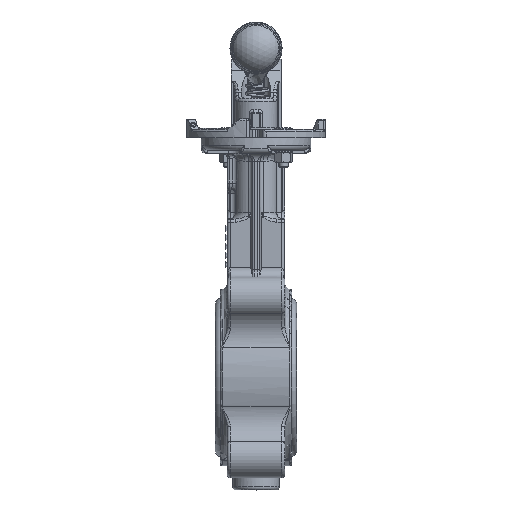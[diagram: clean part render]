
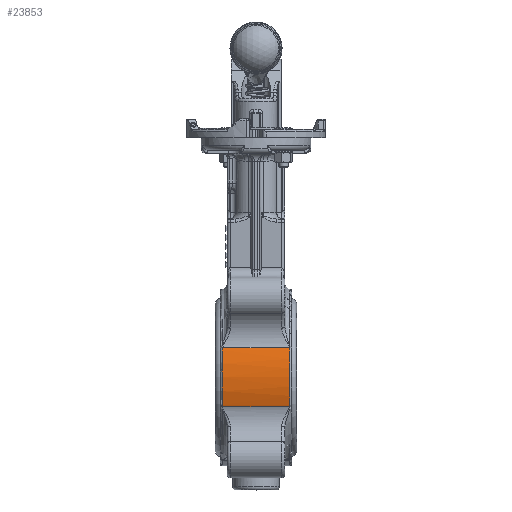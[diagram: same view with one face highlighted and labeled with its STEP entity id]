
A CAD part, top view. The second image highlights one B-rep face of the part: STEP entity #23853.
In plain terms, the highlighted cylindrical face has radius 56.5 mm (diameter 113 mm), a partial arc.
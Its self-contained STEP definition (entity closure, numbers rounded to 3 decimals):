
#23758=CARTESIAN_POINT('',(-79.486,0.0,0.0));
#23759=DIRECTION('',(-1.0,0.0,0.0));
#23760=DIRECTION('',(0.0,0.0,1.0));
#23761=AXIS2_PLACEMENT_3D('',#23758,#23759,#23760);
#23762=CYLINDRICAL_SURFACE('',#23761,56.5);
#23763=CARTESIAN_POINT('',(-21.5,17.562,53.701));
#23764=VERTEX_POINT('',#23763);
#23765=CARTESIAN_POINT('',(-21.5,-17.562,53.701));
#23766=VERTEX_POINT('',#23765);
#23767=CARTESIAN_POINT('',(-21.5,0.0,0.0));
#23768=DIRECTION('',(1.0,0.0,0.0));
#23769=DIRECTION('',(0.0,0.0,-1.0));
#23770=AXIS2_PLACEMENT_3D('',#23767,#23768,#23769);
#23771=CIRCLE('',#23770,56.5);
#23772=EDGE_CURVE('',#23764,#23766,#23771,.T.);
#23773=ORIENTED_EDGE('',*,*,#23772,.T.);
#23774=CARTESIAN_POINT('',(-21.272,-18.945,53.229));
#23775=VERTEX_POINT('',#23774);
#23776=CARTESIAN_POINT('',(-21.5,-17.562,53.701));
#23777=CARTESIAN_POINT('',(-21.5,-17.799,53.624));
#23778=CARTESIAN_POINT('',(-21.486,-18.034,53.545));
#23779=CARTESIAN_POINT('',(-21.451,-18.265,53.466));
#23780=CARTESIAN_POINT('',(-21.433,-18.38,53.427));
#23781=CARTESIAN_POINT('',(-21.41,-18.495,53.387));
#23782=CARTESIAN_POINT('',(-21.381,-18.608,53.348));
#23783=CARTESIAN_POINT('',(-21.351,-18.721,53.308));
#23784=CARTESIAN_POINT('',(-21.314,-18.836,53.268));
#23785=CARTESIAN_POINT('',(-21.272,-18.945,53.229));
#23786=B_SPLINE_CURVE_WITH_KNOTS('',3,(#23776,#23777,#23778,#23779,#23780,#23781,#23782,#23783,#23784,#23785),.UNSPECIFIED.,.F.,.U.,(4,3,3,4),(0.,0.001,0.001,0.001),.UNSPECIFIED.);
#23787=EDGE_CURVE('',#23766,#23775,#23786,.T.);
#23788=ORIENTED_EDGE('',*,*,#23787,.T.);
#23789=CARTESIAN_POINT('',(21.272,-18.945,53.229));
#23790=VERTEX_POINT('',#23789);
#23791=CARTESIAN_POINT('',(21.272,-18.945,53.229));
#23792=DIRECTION('',(-1.0,0.0,0.0));
#23793=VECTOR('',#23792,42.544);
#23794=LINE('',#23791,#23793);
#23795=EDGE_CURVE('',#23790,#23775,#23794,.T.);
#23796=ORIENTED_EDGE('',*,*,#23795,.F.);
#23797=CARTESIAN_POINT('',(21.5,-17.562,53.701));
#23798=VERTEX_POINT('',#23797);
#23799=CARTESIAN_POINT('',(21.272,-18.945,53.229));
#23800=CARTESIAN_POINT('',(21.357,-18.725,53.308));
#23801=CARTESIAN_POINT('',(21.416,-18.495,53.388));
#23802=CARTESIAN_POINT('',(21.451,-18.264,53.467));
#23803=CARTESIAN_POINT('',(21.486,-18.032,53.546));
#23804=CARTESIAN_POINT('',(21.5,-17.798,53.624));
#23805=CARTESIAN_POINT('',(21.5,-17.562,53.701));
#23806=B_SPLINE_CURVE_WITH_KNOTS('',3,(#23799,#23800,#23801,#23802,#23803,#23804,#23805),.UNSPECIFIED.,.F.,.U.,(4,3,4),(0.,0.001,0.001),.UNSPECIFIED.);
#23807=EDGE_CURVE('',#23790,#23798,#23806,.T.);
#23808=ORIENTED_EDGE('',*,*,#23807,.T.);
#23809=CARTESIAN_POINT('',(21.5,17.562,53.701));
#23810=VERTEX_POINT('',#23809);
#23811=CARTESIAN_POINT('',(21.5,0.0,0.0));
#23812=DIRECTION('',(-1.0,0.0,0.0));
#23813=DIRECTION('',(0.0,0.0,1.0));
#23814=AXIS2_PLACEMENT_3D('',#23811,#23812,#23813);
#23815=CIRCLE('',#23814,56.5);
#23816=EDGE_CURVE('',#23798,#23810,#23815,.T.);
#23817=ORIENTED_EDGE('',*,*,#23816,.T.);
#23818=CARTESIAN_POINT('',(21.272,18.945,53.229));
#23819=VERTEX_POINT('',#23818);
#23820=CARTESIAN_POINT('',(21.5,17.562,53.701));
#23821=CARTESIAN_POINT('',(21.5,17.799,53.624));
#23822=CARTESIAN_POINT('',(21.486,18.034,53.545));
#23823=CARTESIAN_POINT('',(21.451,18.265,53.466));
#23824=CARTESIAN_POINT('',(21.433,18.38,53.427));
#23825=CARTESIAN_POINT('',(21.41,18.495,53.387));
#23826=CARTESIAN_POINT('',(21.381,18.608,53.348));
#23827=CARTESIAN_POINT('',(21.351,18.721,53.308));
#23828=CARTESIAN_POINT('',(21.314,18.836,53.268));
#23829=CARTESIAN_POINT('',(21.272,18.945,53.229));
#23830=B_SPLINE_CURVE_WITH_KNOTS('',3,(#23820,#23821,#23822,#23823,#23824,#23825,#23826,#23827,#23828,#23829),.UNSPECIFIED.,.F.,.U.,(4,3,3,4),(0.,0.001,0.001,0.001),.UNSPECIFIED.);
#23831=EDGE_CURVE('',#23810,#23819,#23830,.T.);
#23832=ORIENTED_EDGE('',*,*,#23831,.T.);
#23833=CARTESIAN_POINT('',(-21.272,18.945,53.229));
#23834=VERTEX_POINT('',#23833);
#23835=CARTESIAN_POINT('',(21.272,18.945,53.229));
#23836=DIRECTION('',(-1.0,0.0,0.0));
#23837=VECTOR('',#23836,42.544);
#23838=LINE('',#23835,#23837);
#23839=EDGE_CURVE('',#23819,#23834,#23838,.T.);
#23840=ORIENTED_EDGE('',*,*,#23839,.T.);
#23841=CARTESIAN_POINT('',(-21.272,18.945,53.229));
#23842=CARTESIAN_POINT('',(-21.357,18.725,53.308));
#23843=CARTESIAN_POINT('',(-21.416,18.495,53.388));
#23844=CARTESIAN_POINT('',(-21.451,18.264,53.467));
#23845=CARTESIAN_POINT('',(-21.486,18.032,53.546));
#23846=CARTESIAN_POINT('',(-21.5,17.798,53.624));
#23847=CARTESIAN_POINT('',(-21.5,17.562,53.701));
#23848=B_SPLINE_CURVE_WITH_KNOTS('',3,(#23841,#23842,#23843,#23844,#23845,#23846,#23847),.UNSPECIFIED.,.F.,.U.,(4,3,4),(0.,0.001,0.001),.UNSPECIFIED.);
#23849=EDGE_CURVE('',#23834,#23764,#23848,.T.);
#23850=ORIENTED_EDGE('',*,*,#23849,.T.);
#23851=EDGE_LOOP('',(#23773,#23788,#23796,#23808,#23817,#23832,#23840,#23850));
#23852=FACE_OUTER_BOUND('',#23851,.T.);
#23853=ADVANCED_FACE('',(#23852),#23762,.T.);
